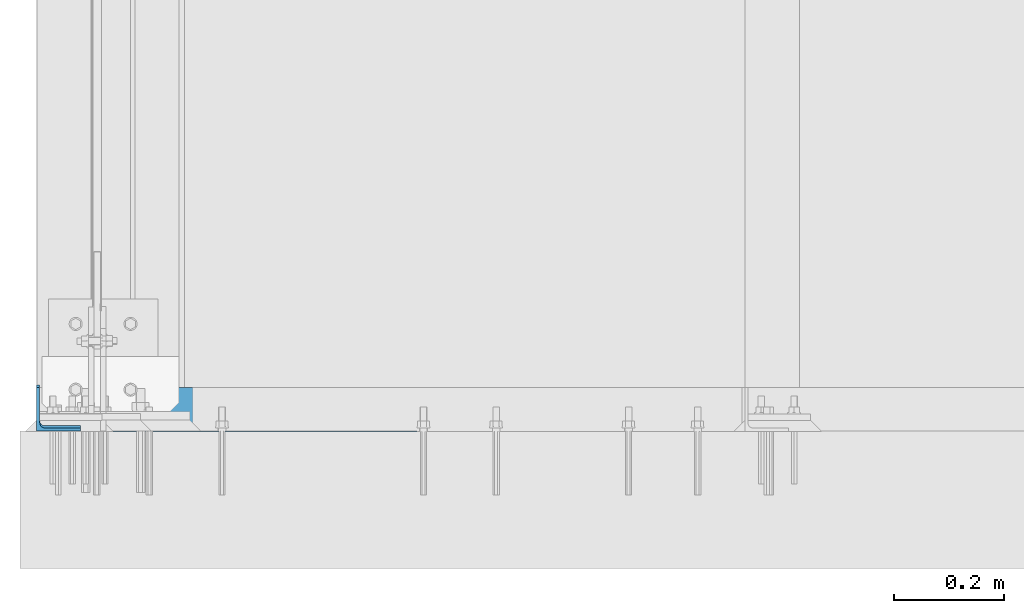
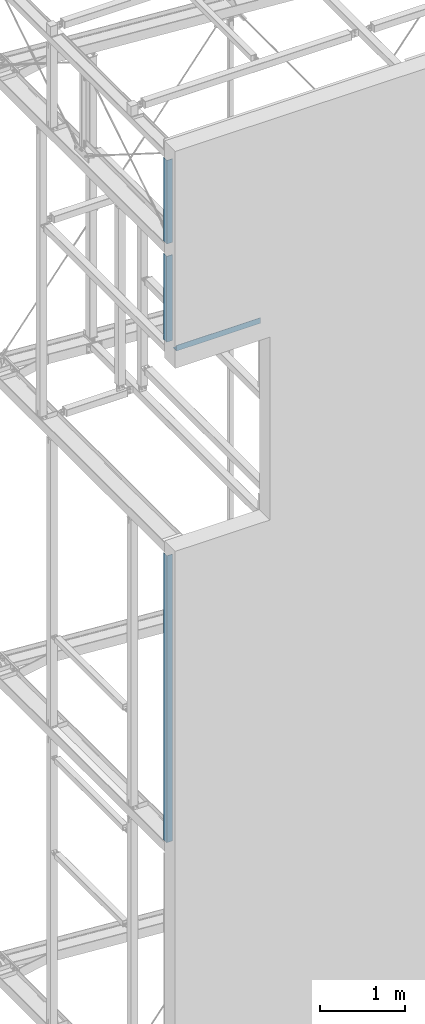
# One storey, part 7 of 271: 4 beams, 4 elements without a shape of their own.
"""IFC2X3 building model written with IfcOpenShell, lengths in millimetres."""

from ifc_helpers import new_model, si_unit, frame, origin_with_axes, origin_2d_with_axis, place, context, subcontext, project, spatial, l_section, extrude, material, type_object, element, aggregate, save


model = new_model("IFC2X3")

# Units and contexts
model_context = context("Model", 3, precision=1e-05, world=origin_with_axes())
body_context = subcontext(model_context, "Body", "Model", "MODEL_VIEW")
ifc_project = project(units=[si_unit("LENGTHUNIT", "METRE", prefix="MILLI"), si_unit("AREAUNIT", "SQUARE_METRE"), si_unit("VOLUMEUNIT", "CUBIC_METRE"), si_unit("MASSUNIT", "GRAM", prefix="KILO"), si_unit("TIMEUNIT", "SECOND"), si_unit("PLANEANGLEUNIT", "RADIAN"), si_unit("SOLIDANGLEUNIT", "STERADIAN"), si_unit("THERMODYNAMICTEMPERATUREUNIT", "DEGREE_CELSIUS"), si_unit("LUMINOUSINTENSITYUNIT", "LUMEN")], contexts=[model_context])

# Site, building, storey
site_placement = place(None, origin_with_axes())
site = spatial("IfcSite", under=ifc_project, at=site_placement, Name="Undefined", CompositionType="ELEMENT")
building_placement = place(site_placement, origin_with_axes())
building = spatial("IfcBuilding", under=site, at=building_placement, Name="Undefined", CompositionType="ELEMENT")
storey_placement = place(building_placement, origin_with_axes())
storey = spatial("IfcBuildingStorey", under=building, at=storey_placement, Name="Undefined", CompositionType="ELEMENT", Elevation=0.0)

# Assembly, beam
assembly_1_placement = place(storey_placement, origin_with_axes())
assembly_1 = element("IfcElementAssembly", 1, at=assembly_1_placement, inside=storey, AssemblyPlace="NOTDEFINED", PredefinedType="RIGID_FRAME")
ifc_material = material(Name="STEEL/S355JR")
beam_type = type_object("IfcBeamType", Name="L80*80*6", PredefinedType="NOTDEFINED")
beam_1_placement = place(assembly_1_placement, frame((28.3756870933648, 43.3249842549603, 17314.3499999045), z_axis=(1.0, 0.0, 0.0), x_axis=(0.0, 0.0, 1.0)))
beam_1 = element("IfcBeam", 2, at=beam_1_placement, type_object=beam_type, material=ifc_material, Name="KĄTOWNIK", ObjectType="L80*80*6", context=body_context, shape_type="SweptSolid", body=[
    extrude(l_section(Depth=80.0, Width=80.0, Thickness=6.0, FilletRadius=9.0, at=origin_2d_with_axis()), frame((1240.0, 0.0, 0.0), z_axis=(-1.0, 0.0, 1.38777878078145e-17), x_axis=(0.0, -1.0, 0.0)), (0.0, 0.0, 1.0), 1240.0),
])
aggregate(assembly_1, [beam_1])

assembly_2_placement = place(storey_placement, origin_with_axes())
assembly_2 = element("IfcElementAssembly", 3, at=assembly_2_placement, inside=storey, AssemblyPlace="NOTDEFINED", PredefinedType="RIGID_FRAME")
beam_2_placement = place(assembly_2_placement, frame((1270.37568709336, 39.0521198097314, 17184.3499999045), z_axis=(0.0, 0.0, 1.0), x_axis=(-1.0, 0.0, 1.38777878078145e-17)))
beam_2 = element("IfcBeam", 4, at=beam_2_placement, type_object=beam_type, material=ifc_material, Name="KĄTOWNIK", ObjectType="L80*80*6", context=body_context, shape_type="SweptSolid", body=[
    extrude(l_section(Depth=80.0, Width=80.0, Thickness=6.0, FilletRadius=9.0, at=origin_2d_with_axis()), frame((1152.0, 0.0, 0.0), z_axis=(-1.0, 0.0, 1.38777878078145e-17), x_axis=(0.0, -1.0, 0.0)), (0.0, 0.0, 1.0), 1152.0),
])
aggregate(assembly_2, [beam_2])

assembly_3_placement = place(storey_placement, origin_with_axes())
assembly_3 = element("IfcElementAssembly", 5, at=assembly_3_placement, inside=storey, AssemblyPlace="NOTDEFINED", PredefinedType="RIGID_FRAME")
beam_3_placement = place(assembly_3_placement, frame((28.3756870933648, 39.3249842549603, 18734.3499999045), z_axis=(1.0, 0.0, 0.0), x_axis=(0.0, 0.0, 1.0)))
beam_3 = element("IfcBeam", 6, at=beam_3_placement, type_object=beam_type, material=ifc_material, Name="KĄTOWNIK", ObjectType="L80*80*6", context=body_context, shape_type="SweptSolid", body=[
    extrude(l_section(Depth=80.0, Width=80.0, Thickness=6.0, FilletRadius=9.0, at=origin_2d_with_axis()), frame((1205.0, 0.0, 0.0), z_axis=(-1.0, 0.0, 1.38777878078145e-17), x_axis=(0.0, -1.0, 0.0)), (0.0, 0.0, 1.0), 1205.0),
])
aggregate(assembly_3, [beam_3])

assembly_4_placement = place(storey_placement, origin_with_axes())
assembly_4 = element("IfcElementAssembly", 7, at=assembly_4_placement, inside=storey, AssemblyPlace="NOTDEFINED", PredefinedType="RIGID_FRAME")
beam_4_placement = place(assembly_4_placement, frame((28.3756870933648, 39.3249842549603, 10094.3499999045), z_axis=(1.0, 0.0, 0.0), x_axis=(0.0, 0.0, 1.0)))
beam_4 = element("IfcBeam", 8, at=beam_4_placement, type_object=beam_type, material=ifc_material, Name="KĄTOWNIK", ObjectType="L80*80*6", context=body_context, shape_type="SweptSolid", body=[
    extrude(l_section(Depth=80.0, Width=80.0, Thickness=6.0, FilletRadius=9.0, at=origin_2d_with_axis()), frame((4140.0, 0.0, 0.0), z_axis=(-1.0, 0.0, 1.38777878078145e-17), x_axis=(0.0, -1.0, 0.0)), (0.0, 0.0, 1.0), 4140.0),
])
aggregate(assembly_4, [beam_4])

save(model, "model.ifc")
